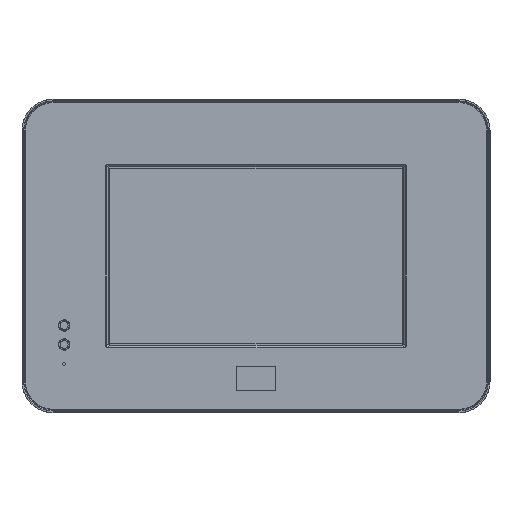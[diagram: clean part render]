
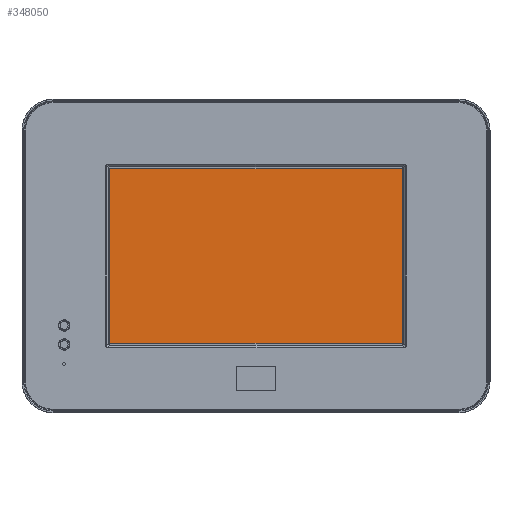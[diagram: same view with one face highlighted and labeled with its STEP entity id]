
A CAD part, top view. The second image highlights one B-rep face of the part: STEP entity #348050.
In plain terms, the highlighted planar face has unit normal (0, 0, 1) as drawn and (0, -1, 0) by its records, which use the part's own axes.
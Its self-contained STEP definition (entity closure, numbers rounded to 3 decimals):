
#347220=CARTESIAN_POINT('',(413.287,44.352,1.43));
#347230=VERTEX_POINT('',#347220);
#347280=CARTESIAN_POINT('',(413.287,44.352,92.83));
#347290=DIRECTION('',(0.,0.,-1.));
#347300=VECTOR('',#347290,1.);
#347310=LINE('',#347280,#347300);
#347320=CARTESIAN_POINT('',(413.287,44.352,92.83));
#347330=VERTEX_POINT('',#347320);
#347340=EDGE_CURVE('',#347330,#347230,#347310,.T.);
#347750=CARTESIAN_POINT('',(0.,44.352,0.));
#347760=DIRECTION('',(0.,-1.,0.));
#347770=DIRECTION('',(1.,0.,0.));
#347780=AXIS2_PLACEMENT_3D('',#347750,#347760,#347770);
#347790=PLANE('',#347780);
#347800=ORIENTED_EDGE('',*,*,#347340,.F.);
#347810=CARTESIAN_POINT('',(413.287,44.352,1.43));
#347820=DIRECTION('',(-1.,0.,0.));
#347830=VECTOR('',#347820,1.);
#347840=LINE('',#347810,#347830);
#347850=CARTESIAN_POINT('',(260.287,44.352,1.43));
#347860=VERTEX_POINT('',#347850);
#347870=EDGE_CURVE('',#347230,#347860,#347840,.T.);
#347880=ORIENTED_EDGE('',*,*,#347870,.F.);
#347890=CARTESIAN_POINT('',(260.287,44.352,1.43));
#347900=DIRECTION('',(0.,0.,1.));
#347910=VECTOR('',#347900,1.);
#347920=LINE('',#347890,#347910);
#347930=CARTESIAN_POINT('',(260.287,44.352,92.83));
#347940=VERTEX_POINT('',#347930);
#347950=EDGE_CURVE('',#347860,#347940,#347920,.T.);
#347960=ORIENTED_EDGE('',*,*,#347950,.F.);
#347970=CARTESIAN_POINT('',(260.287,44.352,92.83));
#347980=DIRECTION('',(1.,0.,0.));
#347990=VECTOR('',#347980,1.);
#348000=LINE('',#347970,#347990);
#348010=EDGE_CURVE('',#347940,#347330,#348000,.T.);
#348020=ORIENTED_EDGE('',*,*,#348010,.F.);
#348030=EDGE_LOOP('',(#348020,#347960,#347880,#347800));
#348040=FACE_OUTER_BOUND('',#348030,.T.);
#348050=ADVANCED_FACE('',(#348040),#347790,.T.);
